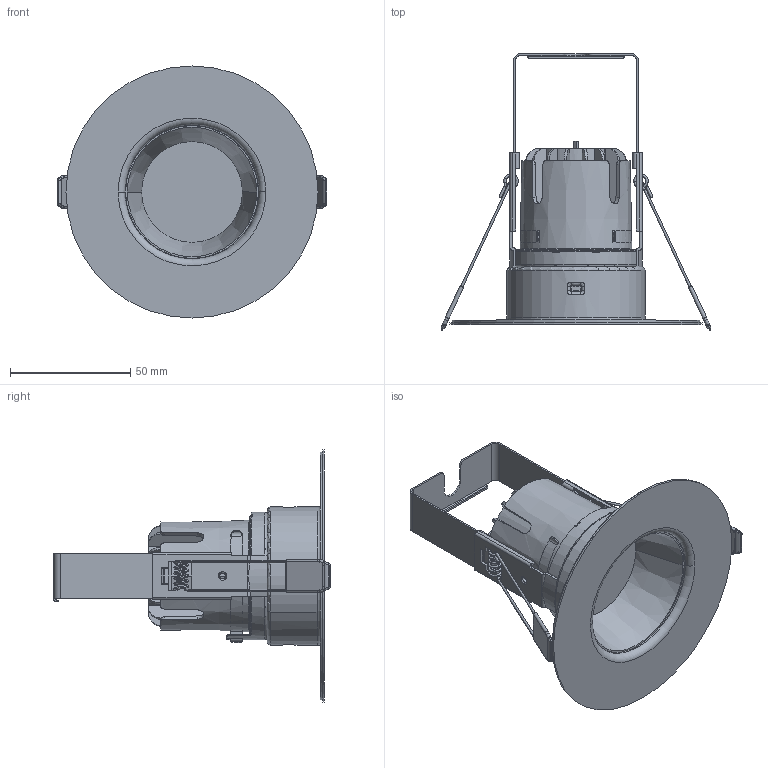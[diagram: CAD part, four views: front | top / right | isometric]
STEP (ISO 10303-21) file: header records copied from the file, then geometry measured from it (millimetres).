
FILE_DESCRIPTION((''),'2;1');
FILE_NAME('TC44007_ASM_49_ASM','2024-10-21T',('Administrator'),(''),'PRO/ENGINEER BY PARAMETRIC TECHNOLOGY CORPORATION, 2010280','PRO/ENGINEER BY PARAMETRIC TECHNOLOGY CORPORATION, 2010280','');
FILE_SCHEMA(('AUTOMOTIVE_DESIGN { 1 0 10303 214 1 1 1 1 }'));
Length unit declared in the file: millimetre
Products named in the file (24): W0638-1_12; SJ0564_4; SHENCAN65_ASM_14_A_001_04_SZ_AS_ASM; 123_04_SZ_ASM_1_ASM; W0200-2_7; F0128_2; SJ0553_15; W0624-2_25; P0630_8; WG0737_2; W0614_10; W0201_1; P0190_1; Y1049_21; P12YXB_3; SJ0674_20; M3X6YT_1; P0722_3; GYB3C2B_1; M2-5_3; KF4414_2; FGZHI_1; TC34077_ASM_27_ASM; TC44007_ASM_49_ASM
Assembly tree (28 placements, depth 4):
  TC44007_ASM_49_ASM
    123_04_SZ_ASM_1_ASM
      SHENCAN65_ASM_14_A_001_04_SZ_AS_ASM
        W0638-1_12
        SJ0564_4
    W0200-2_7
    F0128_2
    SJ0553_15
    W0624-2_25  x2
    P0630_8  x2
    WG0737_2  x2
    W0614_10
    W0201_1
    P0190_1
    TC34077_ASM_27_ASM
      Y1049_21
      P12YXB_3
      SJ0674_20
      M3X6YT_1  x2
      P0722_3
      GYB3C2B_1
      M2-5_3  x2
      KF4414_2
      FGZHI_1
Bounding box: 112.43 x 115.29 x 105 mm (x, y, z)
Volume: 71320.2 mm3; surface area: 103812.4 mm2
Topology: 25 solids, 29 shells, 1534 faces, 4076 edges, 2636 vertices
Faces by surface type: plane 700, cylinder 431, torus 126, bspline 122, cone 118, sphere 37
Entity records: 49411 total; most frequent: CARTESIAN_POINT 15144, ORIENTED_EDGE 7060, DIRECTION 6843, EDGE_CURVE 3546, AXIS2_PLACEMENT_3D 2622, VERTEX_POINT 2314, VECTOR 1599, LINE 1599
